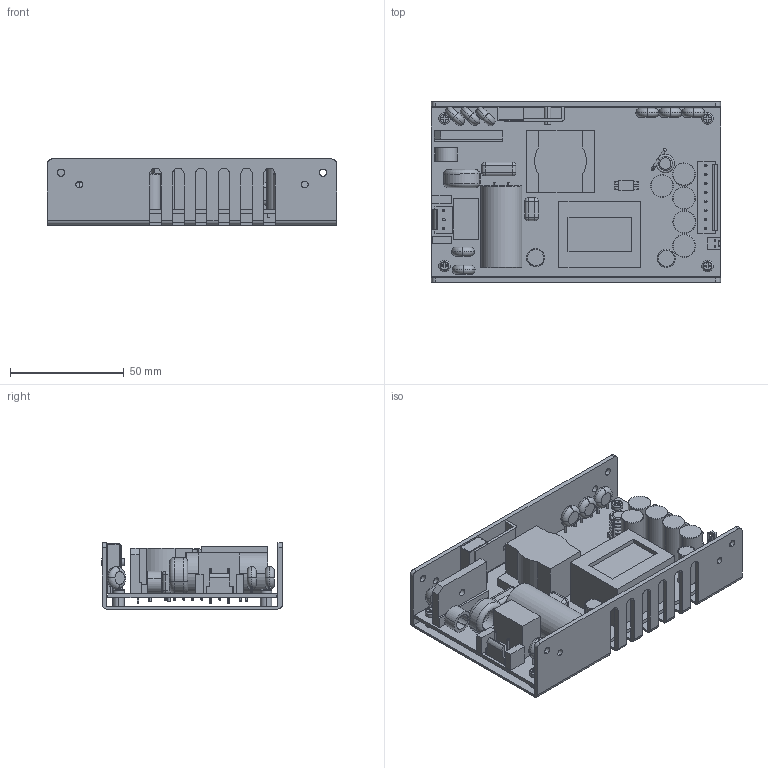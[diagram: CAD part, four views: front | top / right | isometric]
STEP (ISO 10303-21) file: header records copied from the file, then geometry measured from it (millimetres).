
FILE_DESCRIPTION (( 'STEP AP214' ), '1' );
FILE_NAME ('UCP225.STEP', '2016-08-04T06:00:36', ( '' ), ( '' ), 'SwSTEP 2.0', 'SolidWorks 2015', '' );
FILE_SCHEMA (( 'AUTOMOTIVE_DESIGN' ));
Length unit declared in the file: millimetre
Products named in the file (26): UCP225; Common-choke; 16X8; PQ-2620; LP2920; Inductor R6x15; Y-Cap; x-cap 18X11; MEF15X10; MEF10X10; Cap-8-16; Cap-10X20; Cap-18X35.5; PHOTO-COUPLER; 3.96mm P101G-08-8; 2-2 2.54mm; 10mm; 3.96 mm Locking Header 3-2pin; 螺絲; FUSE; WS-73003 26.5X15X9mm; M1F; X25BCHS01F; UCP225 pcb; TO220 帽套; TO-220
Assembly tree (41 placements, depth 2):
  UCP225
    UCP225 pcb
    M1F
    FUSE  x2
    3.96 mm Locking Header 3-2pin
    2-2 2.54mm
    PHOTO-COUPLER
    Cap-18X35.5
    Cap-10X20  x5
    Cap-8-16  x2
    MEF10X10
    MEF15X10
    x-cap 18X11
    Y-Cap  x8
    Inductor R6x15
    LP2920
    PQ-2620
    16X8
    Common-choke
    TO-220
    TO220 帽套
    X25BCHS01F
    WS-73003 26.5X15X9mm
    螺絲  x4
    10mm
    3.96mm P101G-08-8
Bounding box: 127 x 79.45 x 29 mm (x, y, z)
Volume: 103516.9 mm3; surface area: 82442.8 mm2
Topology: 41 solids, 41 shells, 938 faces, 2214 edges, 1372 vertices
Faces by surface type: plane 407, cylinder 332, torus 172, sphere 20, bspline 7
Entity records: 21561 total; most frequent: CARTESIAN_POINT 4464, DIRECTION 3569, ORIENTED_EDGE 3166, EDGE_CURVE 1583, AXIS2_PLACEMENT_3D 1346, VERTEX_POINT 1002, VECTOR 877, LINE 877
